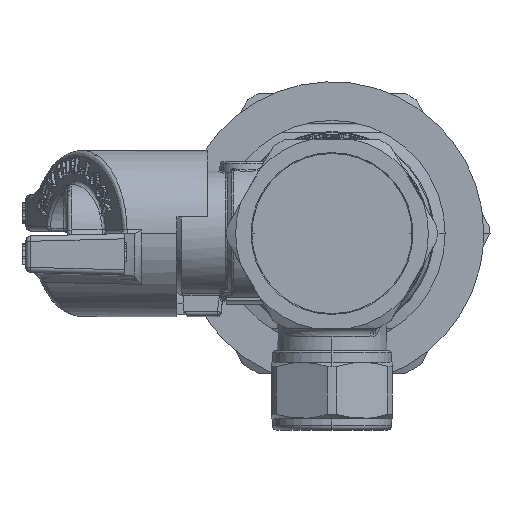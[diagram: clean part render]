
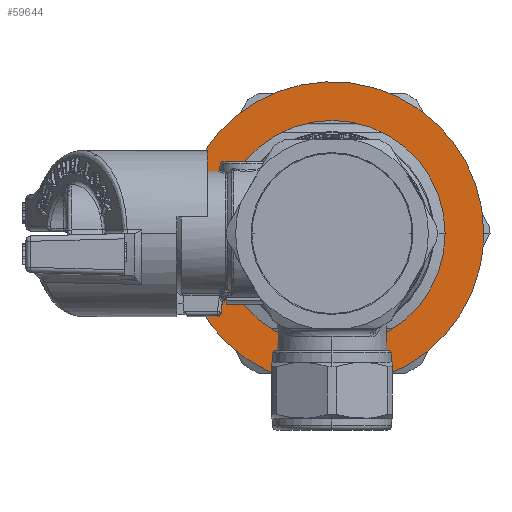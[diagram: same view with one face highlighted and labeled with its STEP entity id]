
A CAD part, left-side view. The second image highlights one B-rep face of the part: STEP entity #59644.
In plain terms, the highlighted planar face has unit normal (1, 0, 0).
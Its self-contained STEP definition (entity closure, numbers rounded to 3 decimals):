
#59525=CARTESIAN_POINT('',(18.9,0.,0.));
#59526=DIRECTION('',(1.,0.,0.));
#59527=DIRECTION('',(0.,1.,0.));
#59528=AXIS2_PLACEMENT_3D('',#59525,#59526,#59527);
#59530=CARTESIAN_POINT('',(18.9,0.,0.));
#59531=DIRECTION('',(1.,0.,0.));
#59532=DIRECTION('',(0.,-1.,0.));
#59533=AXIS2_PLACEMENT_3D('',#59530,#59531,#59532);
#59535=CARTESIAN_POINT('',(18.9,-20.077,0.));
#59536=CARTESIAN_POINT('',(18.9,-20.077,0.92));
#59537=CARTESIAN_POINT('',(18.9,-19.952,2.74));
#59538=CARTESIAN_POINT('',(18.9,-19.393,5.434));
#59539=CARTESIAN_POINT('',(18.9,-18.472,8.024));
#59540=CARTESIAN_POINT('',(18.9,-17.208,10.464));
#59541=CARTESIAN_POINT('',(18.9,-15.623,12.71));
#59542=CARTESIAN_POINT('',(18.9,-13.746,14.719));
#59543=CARTESIAN_POINT('',(18.9,-11.614,16.454));
#59544=CARTESIAN_POINT('',(18.9,-9.266,17.882));
#59545=CARTESIAN_POINT('',(18.9,-6.744,18.977));
#59546=CARTESIAN_POINT('',(18.9,-4.098,19.719));
#59547=CARTESIAN_POINT('',(18.9,-1.374,20.093));
#59548=CARTESIAN_POINT('',(18.9,1.374,20.093));
#59549=CARTESIAN_POINT('',(18.9,4.098,19.719));
#59550=CARTESIAN_POINT('',(18.9,6.744,18.977));
#59551=CARTESIAN_POINT('',(18.9,9.266,17.882));
#59552=CARTESIAN_POINT('',(18.9,11.614,16.454));
#59553=CARTESIAN_POINT('',(18.9,13.746,14.719));
#59554=CARTESIAN_POINT('',(18.9,15.623,12.71));
#59555=CARTESIAN_POINT('',(18.9,17.208,10.464));
#59556=CARTESIAN_POINT('',(18.9,18.472,8.024));
#59557=CARTESIAN_POINT('',(18.9,19.393,5.434));
#59558=CARTESIAN_POINT('',(18.9,19.952,2.74));
#59559=CARTESIAN_POINT('',(18.9,20.077,0.92));
#59560=CARTESIAN_POINT('',(18.9,20.077,0.));
#59562=CARTESIAN_POINT('',(18.9,20.077,0.));
#59563=CARTESIAN_POINT('',(18.9,20.077,-0.92));
#59564=CARTESIAN_POINT('',(18.9,19.952,-2.74));
#59565=CARTESIAN_POINT('',(18.9,19.393,-5.434));
#59566=CARTESIAN_POINT('',(18.9,18.472,-8.024));
#59567=CARTESIAN_POINT('',(18.9,17.208,-10.464));
#59568=CARTESIAN_POINT('',(18.9,15.623,-12.71));
#59569=CARTESIAN_POINT('',(18.9,13.746,-14.719));
#59570=CARTESIAN_POINT('',(18.9,11.614,-16.454));
#59571=CARTESIAN_POINT('',(18.9,9.266,-17.882));
#59572=CARTESIAN_POINT('',(18.9,6.744,-18.977));
#59573=CARTESIAN_POINT('',(18.9,4.098,-19.719));
#59574=CARTESIAN_POINT('',(18.9,1.374,-20.093));
#59575=CARTESIAN_POINT('',(18.9,-1.374,-20.093));
#59576=CARTESIAN_POINT('',(18.9,-4.098,-19.719));
#59577=CARTESIAN_POINT('',(18.9,-6.744,-18.977));
#59578=CARTESIAN_POINT('',(18.9,-9.266,-17.882));
#59579=CARTESIAN_POINT('',(18.9,-11.614,-16.454));
#59580=CARTESIAN_POINT('',(18.9,-13.746,-14.719));
#59581=CARTESIAN_POINT('',(18.9,-15.623,-12.71));
#59582=CARTESIAN_POINT('',(18.9,-17.208,-10.464));
#59583=CARTESIAN_POINT('',(18.9,-18.472,-8.024));
#59584=CARTESIAN_POINT('',(18.9,-19.393,-5.434));
#59585=CARTESIAN_POINT('',(18.9,-19.952,-2.74));
#59586=CARTESIAN_POINT('',(18.9,-20.077,-0.92));
#59587=CARTESIAN_POINT('',(18.9,-20.077,0.));
#59593=CARTESIAN_POINT('',(18.9,14.963,0.));
#59594=CARTESIAN_POINT('',(18.9,-14.963,0.));
#59595=VERTEX_POINT('',#59593);
#59596=VERTEX_POINT('',#59594);
#59597=VERTEX_POINT('',#59560);
#59598=VERTEX_POINT('',#59535);
#59629=CARTESIAN_POINT('',(18.9,0.,0.));
#59630=DIRECTION('',(1.,0.,0.));
#59631=DIRECTION('',(0.,1.,0.));
#59632=AXIS2_PLACEMENT_3D('',#59629,#59630,#59631);
#59633=PLANE('',#59632);
#59635=ORIENTED_EDGE('',*,*,#59634,.T.);
#59637=ORIENTED_EDGE('',*,*,#59636,.T.);
#59638=EDGE_LOOP('',(#59635,#59637));
#59639=FACE_OUTER_BOUND('',#59638,.F.);
#59640=ORIENTED_EDGE('',*,*,#59623,.T.);
#59641=ORIENTED_EDGE('',*,*,#59608,.T.);
#59642=EDGE_LOOP('',(#59640,#59641));
#59643=FACE_BOUND('',#59642,.F.);
#59644=ADVANCED_FACE('',(#59639,#59643),#59633,.T.);
#59529=CIRCLE('',#59528,14.963);
#59534=CIRCLE('',#59533,14.963);
#59561=B_SPLINE_CURVE_WITH_KNOTS('',3,(#59535,#59536,#59537,#59538,#59539,
#59540,#59541,#59542,#59543,#59544,#59545,#59546,#59547,#59548,#59549,#59550,
#59551,#59552,#59553,#59554,#59555,#59556,#59557,#59558,#59559,#59560),
.UNSPECIFIED.,.F.,.F.,(4,1,1,1,1,1,1,1,1,1,1,1,1,1,1,1,1,1,1,1,1,1,1,4),(0.,
0.043,0.087,0.13,0.174,
0.217,0.261,0.304,0.348,
0.391,0.435,0.478,0.522,
0.565,0.609,0.652,0.696,
0.739,0.783,0.826,0.87,
0.913,0.957,1.),.UNSPECIFIED.);
#59588=B_SPLINE_CURVE_WITH_KNOTS('',3,(#59562,#59563,#59564,#59565,#59566,
#59567,#59568,#59569,#59570,#59571,#59572,#59573,#59574,#59575,#59576,#59577,
#59578,#59579,#59580,#59581,#59582,#59583,#59584,#59585,#59586,#59587),
.UNSPECIFIED.,.F.,.F.,(4,1,1,1,1,1,1,1,1,1,1,1,1,1,1,1,1,1,1,1,1,1,1,4),(0.,
0.043,0.087,0.13,0.174,
0.217,0.261,0.304,0.348,
0.391,0.435,0.478,0.522,
0.565,0.609,0.652,0.696,
0.739,0.783,0.826,0.87,
0.913,0.957,1.),.UNSPECIFIED.);
#59608=EDGE_CURVE('',#59596,#59595,#59534,.T.);
#59623=EDGE_CURVE('',#59595,#59596,#59529,.T.);
#59634=EDGE_CURVE('',#59598,#59597,#59561,.T.);
#59636=EDGE_CURVE('',#59597,#59598,#59588,.T.);
